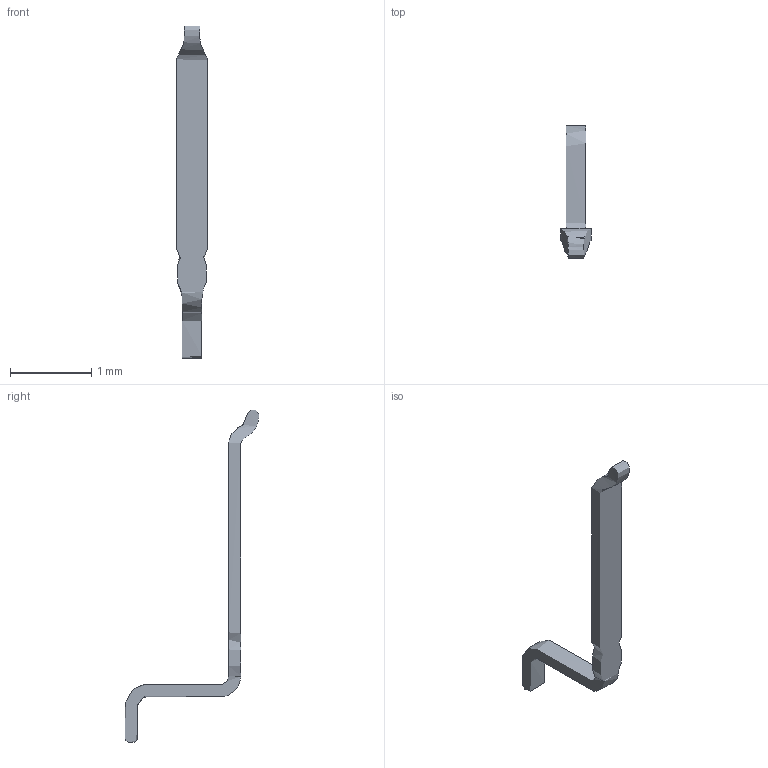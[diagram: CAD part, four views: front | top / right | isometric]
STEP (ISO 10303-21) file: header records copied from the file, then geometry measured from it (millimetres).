
FILE_DESCRIPTION(/* description */ ('STEP AP242 Edition 2','CAx-IF Rec.Pracs.---Representation and Presentation of Product Manufacturing Information (PMI)---4.0---2014-10-13','CAx-IF Rec.Pracs.---3D Tessellated Geometry---0.4---2014-09-14','2;1','CAx-IF Rec.Pracs.---User Defined Attributes---1.5---2016-08-15'),/* implementation_level */ '2;1');
FILE_NAME(/* name */ 'Assembly 1 - Part 50',/* time_stamp */ '2026-03-29T21:14:57Z',/* author */ (''),/* organization */ (''),/* preprocessor_version */ 'ST-DEVELOPER v20',/* originating_system */ 'ONSHAPE BY PTC INC, 1.212',/* authorisation */ ' ');
FILE_SCHEMA (('AP242_MANAGED_MODEL_BASED_3D_ENGINEERING_MIM_LF { 1 0 10303 442 3 1 4 }'));
Length unit declared in the file: metre
Products named in the file (1): Part 50
Bounding box: 0.38 x 1.64 x 4.09 mm (x, y, z)
Surface area: 4.9 mm2 (no closed solid volume)
Topology: 0 solids, 1 shells, 1 faces, 0 edges, 0 vertices
Faces by surface type: other 1
Entity records: 31 total; most frequent: DIRECTION 2, SHAPE_REPRESENTATION_RELATIONSHIP 1, TESSELLATED_SHAPE_REPRESENTATION 1, STYLED_ITEM 1, PRESENTATION_STYLE_ASSIGNMENT 1, SURFACE_STYLE_USAGE 1, SURFACE_SIDE_STYLE 1, SURFACE_STYLE_FILL_AREA 1
